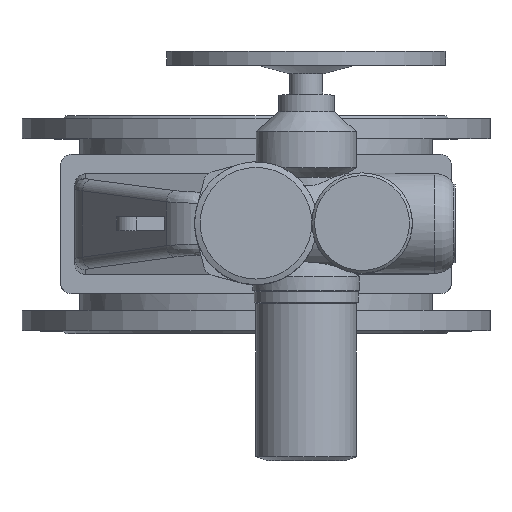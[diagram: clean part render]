
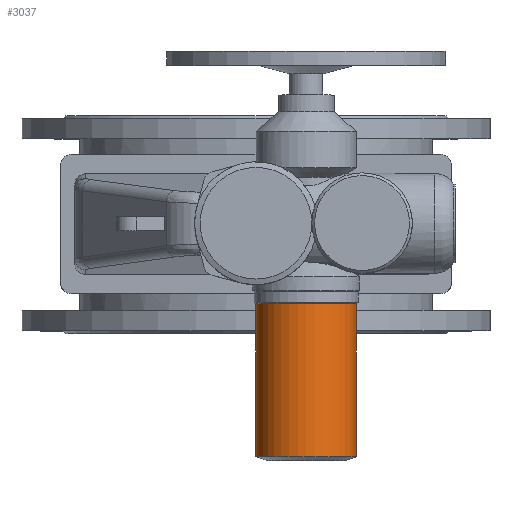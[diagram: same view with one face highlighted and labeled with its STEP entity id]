
A CAD part, top view. The second image highlights one B-rep face of the part: STEP entity #3037.
In plain terms, the highlighted cylindrical face has radius 90 mm (diameter 180 mm), a full revolution.
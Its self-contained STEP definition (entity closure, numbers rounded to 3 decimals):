
#3037=ADVANCED_FACE('',(#7963,#7965),#7967,.T.);
#7963=FACE_OUTER_BOUND('',#7964,.T.);
#7964=EDGE_LOOP('',(#9499));
#7965=FACE_OUTER_BOUND('',#7966,.T.);
#7966=EDGE_LOOP('',(#9500));
#7967=CYLINDRICAL_SURFACE('',#7968,90.);
#7968=AXIS2_PLACEMENT_3D('',#7969,#7970,#7971);
#7969=CARTESIAN_POINT('',(90.,-417.721,1376.));
#7970=DIRECTION('',(0.,1.,0.));
#7971=DIRECTION('',(0.,0.,1.));
#9499=ORIENTED_EDGE('',*,*,#10259,.F.);
#9500=ORIENTED_EDGE('',*,*,#10260,.T.);
#10259=EDGE_CURVE('',#11547,#11547,#11548,.T.);
#10260=EDGE_CURVE('',#11549,#11549,#11550,.T.);
#11547=VERTEX_POINT('',#16567);
#11548=CIRCLE('',#16568,90.);
#11549=VERTEX_POINT('',#16572);
#11550=CIRCLE('',#16573,90.);
#16567=CARTESIAN_POINT('',(90.,-143.811,1466.));
#16568=AXIS2_PLACEMENT_3D('',#16569,#16570,#16571);
#16569=CARTESIAN_POINT('',(90.,-143.811,1376.));
#16570=DIRECTION('',(0.,1.,0.));
#16571=DIRECTION('',(0.,0.,1.));
#16572=CARTESIAN_POINT('',(90.,-417.721,1466.));
#16573=AXIS2_PLACEMENT_3D('',#16574,#16575,#16576);
#16574=CARTESIAN_POINT('',(90.,-417.721,1376.));
#16575=DIRECTION('',(0.,1.,0.));
#16576=DIRECTION('',(0.,0.,1.));
